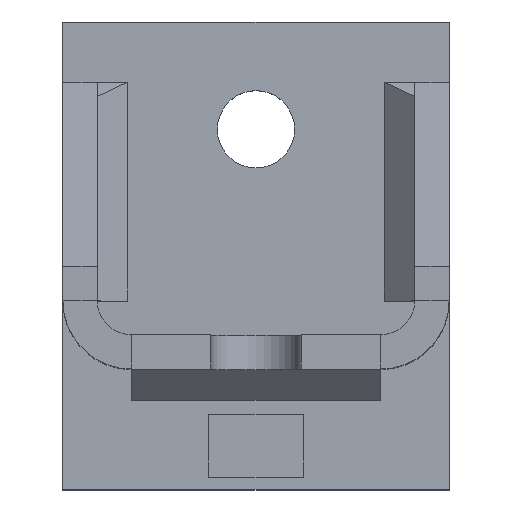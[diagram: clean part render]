
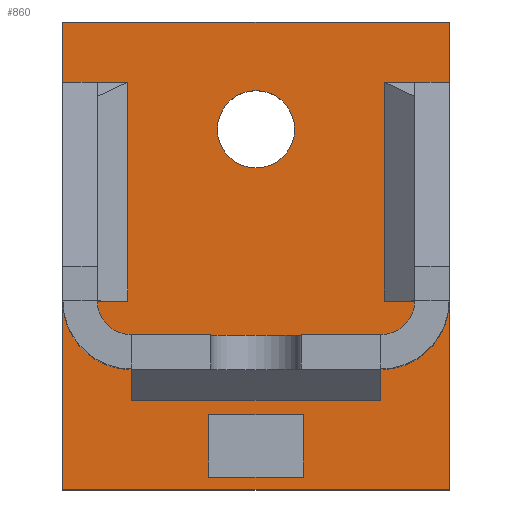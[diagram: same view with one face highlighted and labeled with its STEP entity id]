
A CAD part, top view. The second image highlights one B-rep face of the part: STEP entity #860.
In plain terms, the highlighted planar face has unit normal (0, 0, 1).
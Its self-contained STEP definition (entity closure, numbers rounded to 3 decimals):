
#24=FACE_BOUND('',#169,.T.);
#25=FACE_BOUND('',#170,.T.);
#50=CIRCLE('',#927,9.);
#114=FACE_OUTER_BOUND('',#168,.T.);
#168=EDGE_LOOP('',(#748,#749,#750,#751));
#169=EDGE_LOOP('',(#752,#753,#754,#755));
#170=EDGE_LOOP('',(#756));
#246=LINE('',#1360,#343);
#250=LINE('',#1368,#347);
#253=LINE('',#1374,#350);
#256=LINE('',#1379,#353);
#258=LINE('',#1390,#355);
#262=LINE('',#1398,#359);
#265=LINE('',#1404,#362);
#268=LINE('',#1409,#365);
#343=VECTOR('',#1122,22.);
#347=VECTOR('',#1128,14.5);
#350=VECTOR('',#1133,22.);
#353=VECTOR('',#1138,14.5);
#355=VECTOR('',#1150,90.);
#359=VECTOR('',#1156,109.);
#362=VECTOR('',#1161,90.);
#365=VECTOR('',#1166,109.);
#417=VERTEX_POINT('',#1358);
#418=VERTEX_POINT('',#1359);
#421=VERTEX_POINT('',#1367);
#423=VERTEX_POINT('',#1373);
#425=VERTEX_POINT('',#1383);
#427=VERTEX_POINT('',#1388);
#428=VERTEX_POINT('',#1389);
#431=VERTEX_POINT('',#1397);
#433=VERTEX_POINT('',#1403);
#518=EDGE_CURVE('',#417,#418,#246,.T.);
#522=EDGE_CURVE('',#421,#417,#250,.T.);
#525=EDGE_CURVE('',#423,#421,#253,.T.);
#528=EDGE_CURVE('',#418,#423,#256,.T.);
#530=EDGE_CURVE('',#425,#425,#50,.T.);
#532=EDGE_CURVE('',#427,#428,#258,.T.);
#536=EDGE_CURVE('',#428,#431,#262,.T.);
#539=EDGE_CURVE('',#431,#433,#265,.T.);
#542=EDGE_CURVE('',#433,#427,#268,.T.);
#748=ORIENTED_EDGE('',*,*,#532,.F.);
#749=ORIENTED_EDGE('',*,*,#542,.F.);
#750=ORIENTED_EDGE('',*,*,#539,.F.);
#751=ORIENTED_EDGE('',*,*,#536,.F.);
#752=ORIENTED_EDGE('',*,*,#518,.T.);
#753=ORIENTED_EDGE('',*,*,#528,.T.);
#754=ORIENTED_EDGE('',*,*,#525,.T.);
#755=ORIENTED_EDGE('',*,*,#522,.T.);
#756=ORIENTED_EDGE('',*,*,#530,.T.);
#807=PLANE('',#933);
#860=ADVANCED_FACE('',(#114,#24,#25),#807,.T.);
#927=AXIS2_PLACEMENT_3D('',#1384,#1144,#1145);
#933=AXIS2_PLACEMENT_3D('',#1411,#1168,#1169);
#1122=DIRECTION('',(0.,1.,0.));
#1128=DIRECTION('',(-1.,0.,0.));
#1133=DIRECTION('',(0.,-1.,0.));
#1138=DIRECTION('',(1.,0.,0.));
#1144=DIRECTION('center_axis',(0.,0.,-1.));
#1145=DIRECTION('ref_axis',(-1.,0.,0.));
#1150=DIRECTION('',(0.,-1.,0.));
#1156=DIRECTION('',(-1.,0.,0.));
#1161=DIRECTION('',(0.,1.,0.));
#1166=DIRECTION('',(1.,0.,0.));
#1168=DIRECTION('center_axis',(0.,0.,1.));
#1169=DIRECTION('ref_axis',(1.,0.,0.));
#1358=CARTESIAN_POINT('',(66.5,-11.,8.));
#1359=CARTESIAN_POINT('',(66.5,11.,8.));
#1360=CARTESIAN_POINT('',(66.5,-5.5,8.));
#1367=CARTESIAN_POINT('',(81.,-11.,8.));
#1368=CARTESIAN_POINT('',(55.25,-11.,8.));
#1373=CARTESIAN_POINT('',(81.,11.,8.));
#1374=CARTESIAN_POINT('',(81.,5.5,8.));
#1379=CARTESIAN_POINT('',(48.,11.,8.));
#1383=CARTESIAN_POINT('',(9.,0.,8.));
#1384=CARTESIAN_POINT('Origin',(0.,0.,8.));
#1388=CARTESIAN_POINT('',(84.,45.,8.));
#1389=CARTESIAN_POINT('',(84.,-45.,8.));
#1390=CARTESIAN_POINT('',(84.,45.,8.));
#1397=CARTESIAN_POINT('',(-25.,-45.,8.));
#1398=CARTESIAN_POINT('',(84.,-45.,8.));
#1403=CARTESIAN_POINT('',(-25.,45.,8.));
#1404=CARTESIAN_POINT('',(-25.,-45.,8.));
#1409=CARTESIAN_POINT('',(-25.,45.,8.));
#1411=CARTESIAN_POINT('Origin',(29.5,0.,8.));
